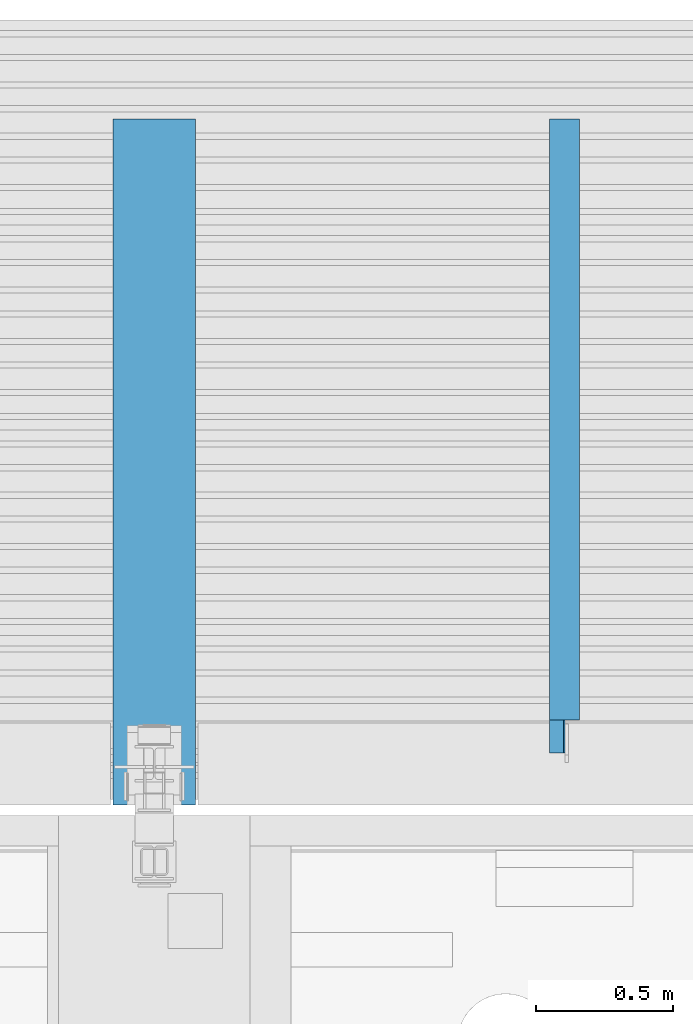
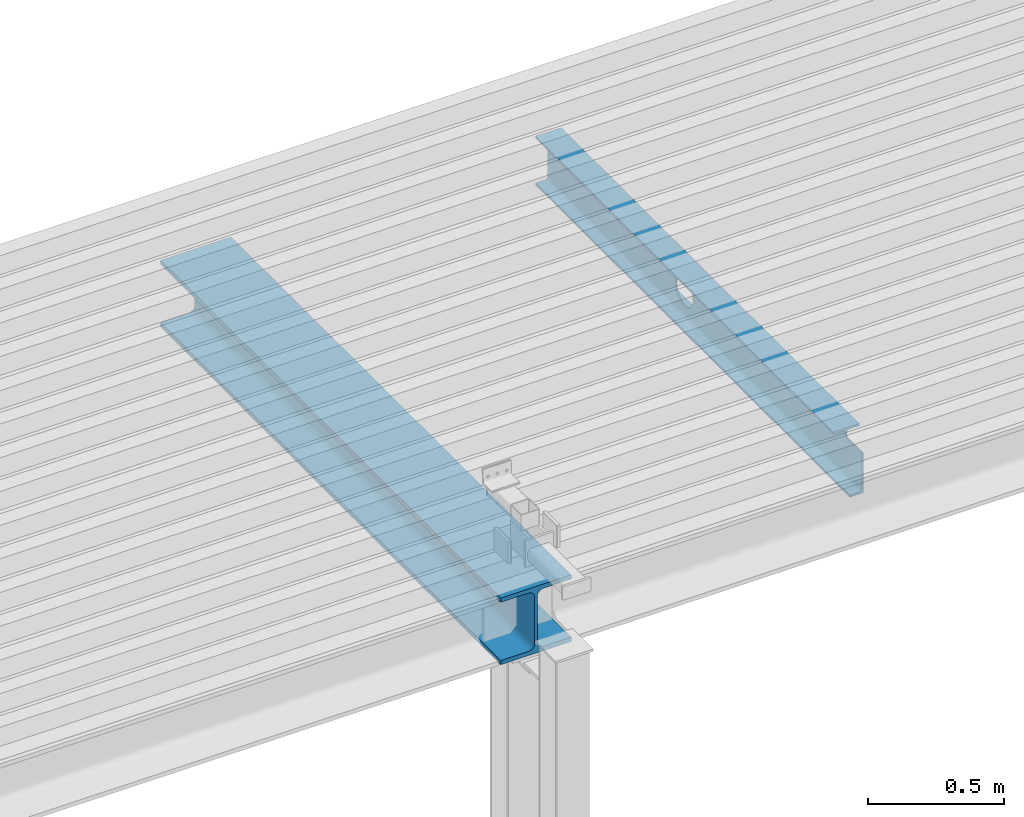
# One storey, part 24 of 34: 2 beams.
"""IFC2X3 building model written with IfcOpenShell, lengths in millimetres."""

from ifc_helpers import new_model, entity, si_unit, converted_unit, derived_unit, direction, frame, origin_with_axes, place, context, subcontext, project, spatial, faceted_brep, type_object, element, save


model = new_model("IFC2X3")

# Units and contexts
model_context = context("Model", 3, precision=0.01, world=frame((0.0, 4.29681676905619e-09, 0.0)), true_north=direction((4.01073788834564e-13, 1.0)))
plan_context = context("Plan", 3, precision=0.01, world=frame((0.0, 4.29681676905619e-09, 0.0)), true_north=direction((4.01073788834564e-13, 1.0)))
body_context = subcontext(model_context, "Body", "Model", "MODEL_VIEW")
ifc_project = project(units=[converted_unit("PLANEANGLEUNIT", "DEGREE", entity("IfcPositiveLengthMeasure", 0.0174532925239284), si_unit("PLANEANGLEUNIT", "RADIAN"), dimensions=[0, 0, 0, 0, 0, 0, 0]), si_unit("AREAUNIT", "SQUARE_METRE"), si_unit("LENGTHUNIT", "METRE", prefix="MILLI"), si_unit("MASSUNIT", "GRAM", prefix="KILO"), si_unit("POWERUNIT", "WATT"), si_unit("PRESSUREUNIT", "PASCAL"), si_unit("FORCEUNIT", "NEWTON", prefix="KILO"), si_unit("ELECTRICVOLTAGEUNIT", "VOLT"), si_unit("ELECTRICCURRENTUNIT", "AMPERE"), si_unit("THERMODYNAMICTEMPERATUREUNIT", "DEGREE_CELSIUS"), si_unit("TIMEUNIT", "SECOND"), si_unit("VOLUMEUNIT", "CUBIC_METRE"), derived_unit("LINEARVELOCITYUNIT", [(si_unit("LENGTHUNIT", "METRE"), 1), (si_unit("TIMEUNIT", "SECOND"), -1)]), derived_unit("VOLUMETRICFLOWRATEUNIT", [(si_unit("VOLUMEUNIT", "CUBIC_METRE"), 1), (si_unit("TIMEUNIT", "SECOND"), -1)]), derived_unit("THERMALTRANSMITTANCEUNIT", [(si_unit("POWERUNIT", "WATT"), 1), (si_unit("THERMODYNAMICTEMPERATUREUNIT", "KELVIN"), -1), (si_unit("AREAUNIT", "SQUARE_METRE"), -1)]), derived_unit("SOUNDPRESSUREUNIT", [(si_unit("PRESSUREUNIT", "PASCAL"), 1)])], contexts=[model_context, plan_context])

# Site, building, storey
site_placement = place(None, frame((0.0, -4.29681676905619e-09, 0.0), z_axis=(0.0, 0.0, 1.0), x_axis=(1.0, 0.0, 0.0)))
site = spatial("IfcSite", under=ifc_project, at=site_placement, Name="Gardermoen", CompositionType="ELEMENT")
building_placement = place(site_placement, frame((0.0, 4.29681676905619e-09, 0.0), z_axis=(0.0, 0.0, 1.0), x_axis=(1.0, 0.0, 0.0)))
building = spatial("IfcBuilding", under=site, at=building_placement, Name="TH", CompositionType="ELEMENT")
storey_placement = place(building_placement, origin_with_axes())
storey = spatial("IfcBuildingStorey", under=building, at=storey_placement, Name="F", CompositionType="ELEMENT", Elevation=0.0)

# Beams
beam_type_1 = type_object("IfcBeamType", Name="HEB300", PredefinedType="NOTDEFINED")
beam_1_placement = place(storey_placement, frame((898000.000000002, 484849.995625, 213270.0), z_axis=(0.0, 0.0, 1.0), x_axis=(0.0, 1.0, 0.0)))
element("IfcBeam", 1, at=beam_1_placement, inside=storey, type_object=beam_type_1, Name="STÅLBJELKE", ObjectType="HEB300", context=body_context, shape_type="Brep", body=[
    faceted_brep([(2507.65437500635, -149.999999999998, -149.999999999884), (2507.65437500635, 150.000000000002, -149.999999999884), (-4.10182110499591e-10, 150.000000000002, -149.999999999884), (-4.10182110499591e-10, -149.999999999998, -149.999999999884), (2507.65437500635, -149.999999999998, -130.999999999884), (-4.10182110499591e-10, -149.999999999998, -130.999999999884), (2507.65437500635, -32.4999999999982, -130.999999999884), (-4.10182110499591e-10, -32.4999999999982, -130.999999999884), (2507.65437500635, -27.2325613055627, -130.481202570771), (-4.10182110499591e-10, -27.2325613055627, -130.481202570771), (2507.65437500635, -22.1675473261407, -128.944747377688), (-4.10182110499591e-10, -22.1675473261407, -128.944747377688), (2507.65437500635, -17.4996037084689, -126.449679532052), (-4.10182110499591e-10, -17.4996037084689, -126.449679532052), (2507.65437500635, -13.4081169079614, -123.09188309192), (-4.10182110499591e-10, -13.4081169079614, -123.09188309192), (2507.65437500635, -10.0503204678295, -119.000396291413), (-4.10182110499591e-10, -10.0503204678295, -119.000396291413), (2507.65437500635, -7.55525262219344, -114.332452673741), (-4.10182110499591e-10, -7.55525262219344, -114.332452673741), (2507.65437500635, -6.01879742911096, -109.267438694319), (-4.10182110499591e-10, -6.01879742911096, -109.267438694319), (2507.65437500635, -5.49999999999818, -103.999999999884), (-4.10182110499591e-10, -5.49999999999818, -103.999999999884), (2507.65437500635, -5.49999999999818, 104.000000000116), (-4.10182110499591e-10, -5.49999999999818, 104.000000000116), (1499.99999644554, -5.49999999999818, -22.4999973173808), (1510.2871607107, -5.49999999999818, -21.6475789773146), (1520.2937158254, -5.49999999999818, -19.113575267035), (1529.74671125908, -5.49999999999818, -14.9671072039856), (1538.38829393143, -5.49999999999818, -9.32127963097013), (1545.98274398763, -5.49999999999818, -2.33009601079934), (1552.32290462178, -5.49999999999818, 5.81574238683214), (1557.23583277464, -5.49999999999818, 14.8940383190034), (1560.58751656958, -5.49999999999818, 24.6571595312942), (1562.28653080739, -5.49999999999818, 34.8387935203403), (1562.28653080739, -5.49999999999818, 45.1612118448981), (1560.58751656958, -5.49999999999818, 55.3428458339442), (1557.23583277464, -5.49999999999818, 65.105967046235), (1552.32290462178, -5.49999999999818, 74.1842629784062), (1545.98274398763, -5.49999999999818, 82.3301013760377), (1538.38829393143, -5.49999999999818, 89.3212849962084), (1529.74671125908, -5.49999999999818, 94.9671125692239), (1520.2937158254, -5.49999999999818, 99.1135806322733), (1510.2871607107, -5.49999999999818, 101.647584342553), (1499.99999866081, -5.49999999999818, 102.500002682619), (1489.14699239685, -5.49999999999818, 101.550487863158), (1478.62374438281, -5.49999999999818, 98.7307926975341), (1468.75000307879, -5.49999999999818, 94.1265921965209), (1459.82577711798, -5.49999999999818, 87.8777826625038), (1452.1222245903, -5.49999999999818, 80.1742310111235), (1445.87341404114, -5.49999999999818, 71.250005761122), (1441.26921241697, -5.49999999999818, 61.3762649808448), (1438.4495160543, -5.49999999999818, 50.8530172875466), (1437.50000000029, -5.49999999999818, 40.0000062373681), (1438.44951481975, -5.49999999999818, 29.1469950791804), (1441.26920998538, -5.49999999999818, 18.6237470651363), (1445.87341048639, -5.49999999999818, 8.75000576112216), (1452.12222002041, -5.49999999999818, -0.17422019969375), (1459.82577167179, -5.49999999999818, -7.87777272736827), (1468.74999692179, -5.49999999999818, -14.1265832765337), (1478.62373770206, -5.49999999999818, -18.7307849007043), (1489.14698539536, -5.49999999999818, -21.5504812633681), (2507.65437500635, -6.01879742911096, 109.267438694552), (-4.10182110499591e-10, -6.01879742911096, 109.267438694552), (2507.65437500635, -7.55525262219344, 114.332452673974), (-4.10182110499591e-10, -7.55525262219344, 114.332452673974), (2507.65437500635, -10.0503204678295, 119.000396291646), (-4.10182110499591e-10, -10.0503204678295, 119.000396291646), (2507.65437500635, -13.4081169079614, 123.091883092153), (-4.10182110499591e-10, -13.4081169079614, 123.091883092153), (2507.65437500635, -17.4996037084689, 126.449679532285), (-4.10182110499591e-10, -17.4996037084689, 126.449679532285), (2507.65437500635, -22.1675473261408, 128.944747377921), (-4.10182110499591e-10, -22.1675473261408, 128.944747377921), (2507.65437500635, -27.2325613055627, 130.481202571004), (-4.10182110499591e-10, -27.2325613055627, 130.481202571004), (2507.65437500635, -32.4999999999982, 131.000000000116), (-4.10182110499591e-10, -32.4999999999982, 131.000000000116), (2507.65437500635, -149.999999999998, 131.000000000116), (-4.10182110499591e-10, -149.999999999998, 131.000000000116), (2507.65437500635, -149.999999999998, 150.000000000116), (-4.10182110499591e-10, -149.999999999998, 150.000000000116), (2507.65437500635, 150.000000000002, 150.000000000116), (-4.10182110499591e-10, 150.000000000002, 150.000000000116), (2507.65437500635, 150.000000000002, 131.000000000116), (-4.10182110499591e-10, 150.000000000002, 131.000000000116), (2507.65437500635, 32.5000000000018, 131.000000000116), (-4.10182110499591e-10, 32.5000000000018, 131.000000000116), (2507.65437500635, 27.2325613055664, 130.481202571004), (-4.10182110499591e-10, 27.2325613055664, 130.481202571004), (2507.65437500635, 22.1675473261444, 128.944747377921), (-4.10182110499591e-10, 22.1675473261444, 128.944747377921), (2507.65437500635, 17.4996037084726, 126.449679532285), (-4.10182110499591e-10, 17.4996037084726, 126.449679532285), (2507.65437500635, 13.408116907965, 123.091883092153), (-4.10182110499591e-10, 13.408116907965, 123.091883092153), (2507.65437500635, 10.0503204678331, 119.000396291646), (-4.10182110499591e-10, 10.0503204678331, 119.000396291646), (2507.65437500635, 7.55525262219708, 114.332452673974), (-4.10182110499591e-10, 7.55525262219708, 114.332452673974), (2507.65437500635, 6.0187974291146, 109.267438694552), (-4.10182110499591e-10, 6.0187974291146, 109.267438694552), (2507.65437500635, 5.50000000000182, 104.000000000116), (-4.10182110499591e-10, 5.50000000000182, 104.000000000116), (2507.65437500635, 5.50000000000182, -103.999999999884), (-4.10182110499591e-10, 5.50000000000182, -103.999999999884), (1510.2871607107, 5.5000000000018, -21.6475789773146), (1499.99999644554, 5.5000000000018, -22.4999973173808), (1489.14698539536, 5.5000000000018, -21.5504812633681), (1478.62373770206, 5.5000000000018, -18.7307849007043), (1468.74999692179, 5.5000000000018, -14.1265832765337), (1459.82577167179, 5.5000000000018, -7.87777272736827), (1452.12222002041, 5.5000000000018, -0.17422019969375), (1445.87341048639, 5.5000000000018, 8.75000576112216), (1441.26920998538, 5.5000000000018, 18.6237470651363), (1438.44951481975, 5.5000000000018, 29.1469950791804), (1437.50000000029, 5.5000000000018, 40.0000062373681), (1438.4495160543, 5.5000000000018, 50.8530172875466), (1441.26921241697, 5.5000000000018, 61.3762649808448), (1445.87341404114, 5.5000000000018, 71.250005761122), (1452.1222245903, 5.5000000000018, 80.1742310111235), (1459.82577711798, 5.5000000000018, 87.8777826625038), (1468.75000307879, 5.5000000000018, 94.1265921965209), (1478.62374438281, 5.5000000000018, 98.7307926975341), (1489.14699239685, 5.5000000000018, 101.550487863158), (1499.99999866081, 5.5000000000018, 102.500002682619), (1510.2871607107, 5.5000000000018, 101.647584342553), (1520.2937158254, 5.5000000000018, 99.1135806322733), (1529.74671125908, 5.5000000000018, 94.9671125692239), (1538.38829393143, 5.5000000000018, 89.3212849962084), (1545.98274398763, 5.5000000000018, 82.3301013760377), (1552.32290462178, 5.5000000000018, 74.1842629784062), (1557.23583277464, 5.5000000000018, 65.105967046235), (1560.58751656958, 5.5000000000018, 55.3428458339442), (1562.28653080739, 5.5000000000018, 45.1612118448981), (1562.28653080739, 5.5000000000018, 34.8387935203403), (1560.58751656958, 5.5000000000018, 24.6571595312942), (1557.23583277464, 5.5000000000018, 14.8940383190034), (1552.32290462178, 5.5000000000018, 5.81574238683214), (1545.98274398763, 5.5000000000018, -2.33009601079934), (1538.38829393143, 5.5000000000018, -9.32127963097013), (1529.74671125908, 5.5000000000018, -14.9671072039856), (1520.2937158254, 5.5000000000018, -19.113575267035), (2507.65437500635, 6.0187974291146, -109.267438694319), (-4.10182110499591e-10, 6.0187974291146, -109.267438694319), (2507.65437500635, 7.55525262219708, -114.332452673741), (-4.10182110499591e-10, 7.55525262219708, -114.332452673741), (2507.65437500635, 10.0503204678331, -119.000396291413), (-4.10182110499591e-10, 10.0503204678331, -119.000396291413), (2507.65437500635, 13.408116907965, -123.09188309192), (-4.10182110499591e-10, 13.408116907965, -123.09188309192), (2507.65437500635, 17.4996037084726, -126.449679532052), (-4.10182110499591e-10, 17.4996037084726, -126.449679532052), (2507.65437500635, 22.1675473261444, -128.944747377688), (-4.10182110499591e-10, 22.1675473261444, -128.944747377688), (2507.65437500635, 27.2325613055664, -130.481202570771), (-4.10182110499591e-10, 27.2325613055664, -130.481202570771), (2507.65437500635, 32.5000000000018, -130.999999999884), (-4.10182110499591e-10, 32.5000000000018, -130.999999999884), (2507.65437500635, 150.000000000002, -130.999999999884), (-4.10182110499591e-10, 150.000000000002, -130.999999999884)], [[[0, 1, 2, 3]], [[4, 0, 3, 5]], [[6, 4, 5, 7]], [[8, 6, 7, 9]], [[10, 8, 9, 11]], [[12, 10, 11, 13]], [[14, 12, 13, 15]], [[16, 14, 15, 17]], [[18, 16, 17, 19]], [[20, 18, 19, 21]], [[22, 20, 21, 23]], [[24, 22, 23, 25], [26, 27, 28, 29, 30, 31, 32, 33, 34, 35, 36, 37, 38, 39, 40, 41, 42, 43, 44, 45, 46, 47, 48, 49, 50, 51, 52, 53, 54, 55, 56, 57, 58, 59, 60, 61, 62]], [[63, 24, 25, 64]], [[65, 63, 64, 66]], [[67, 65, 66, 68]], [[69, 67, 68, 70]], [[71, 69, 70, 72]], [[73, 71, 72, 74]], [[75, 73, 74, 76]], [[77, 75, 76, 78]], [[79, 77, 78, 80]], [[81, 79, 80, 82]], [[83, 81, 82, 84]], [[85, 83, 84, 86]], [[87, 85, 86, 88]], [[89, 87, 88, 90]], [[91, 89, 90, 92]], [[93, 91, 92, 94]], [[95, 93, 94, 96]], [[97, 95, 96, 98]], [[99, 97, 98, 100]], [[101, 99, 100, 102]], [[103, 101, 102, 104]], [[105, 103, 104, 106], [107, 108, 109, 110, 111, 112, 113, 114, 115, 116, 117, 118, 119, 120, 121, 122, 123, 124, 125, 126, 127, 128, 129, 130, 131, 132, 133, 134, 135, 136, 137, 138, 139, 140, 141, 142, 143]], [[144, 105, 106, 145]], [[146, 144, 145, 147]], [[148, 146, 147, 149]], [[150, 148, 149, 151]], [[152, 150, 151, 153]], [[154, 152, 153, 155]], [[156, 154, 155, 157]], [[158, 156, 157, 159]], [[160, 158, 159, 161]], [[1, 160, 161, 2]], [[3, 2, 161, 159, 157, 155, 153, 151, 149, 147, 145, 106, 104, 102, 100, 98, 96, 94, 92, 90, 88, 86, 84, 82, 80, 78, 76, 74, 72, 70, 68, 66, 64, 25, 23, 21, 19, 17, 15, 13, 11, 9, 7, 5]], [[27, 26, 108, 107]], [[26, 62, 109, 108]], [[62, 61, 110, 109]], [[61, 60, 111, 110]], [[60, 59, 112, 111]], [[59, 58, 113, 112]], [[58, 57, 114, 113]], [[57, 56, 115, 114]], [[56, 55, 116, 115]], [[55, 54, 117, 116]], [[54, 53, 118, 117]], [[53, 52, 119, 118]], [[52, 51, 120, 119]], [[51, 50, 121, 120]], [[50, 49, 122, 121]], [[49, 48, 123, 122]], [[48, 47, 124, 123]], [[47, 46, 125, 124]], [[46, 45, 126, 125]], [[45, 44, 127, 126]], [[44, 43, 128, 127]], [[43, 42, 129, 128]], [[42, 41, 130, 129]], [[41, 40, 131, 130]], [[40, 39, 132, 131]], [[39, 38, 133, 132]], [[38, 37, 134, 133]], [[37, 36, 135, 134]], [[36, 35, 136, 135]], [[35, 34, 137, 136]], [[34, 33, 138, 137]], [[33, 32, 139, 138]], [[32, 31, 140, 139]], [[31, 30, 141, 140]], [[30, 29, 142, 141]], [[29, 28, 143, 142]], [[28, 27, 107, 143]], [[4, 6, 8, 10, 12, 14, 16, 18, 20, 22, 24, 63, 65, 67, 69, 71, 73, 75, 77, 79, 81, 83, 85, 87, 89, 91, 93, 95, 97, 99, 101, 103, 105, 144, 146, 148, 150, 152, 154, 156, 158, 160, 1, 0]]], orient=[[False], [False], [False], [False], [False], [False], [False], [False], [False], [False], [False], [False, False], [False], [False], [False], [False], [False], [False], [False], [False], [False], [False], [False], [False], [False], [False], [False], [False], [False], [False], [False], [False], [False], [False, False], [False], [False], [False], [False], [False], [False], [False], [False], [False], [False], [False], [False], [False], [False], [False], [False], [False], [False], [False], [False], [False], [False], [False], [False], [False], [False], [False], [False], [False], [False], [False], [False], [False], [False], [False], [False], [False], [False], [False], [False], [False], [False], [False], [False], [False], [False], [False], [False], [False]]),
])
beam_type_2 = type_object("IfcBeamType", Name="IPE220", PredefinedType="NOTDEFINED")
beam_2_placement = place(storey_placement, frame((899499.999781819, 485029.995624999, 213310.0), z_axis=(0.0, 0.0, 1.0), x_axis=(0.0, 1.0, 0.0)))
element("IfcBeam", 2, at=beam_2_placement, inside=storey, type_object=beam_type_2, Name="STÅLBJELKE", ObjectType="IPE220", context=body_context, shape_type="Brep", body=[
    faceted_brep([(2327.65437500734, -55.0, -110.0), (2327.65437500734, 55.0, -110.0), (9.99999999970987, 55.0, -110.0), (9.99999999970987, -2.9500000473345, -110.0), (129.999999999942, -2.95000004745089, -110.0), (129.999999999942, -55.0, -110.0), (2327.65437500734, -55.0, -100.800000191), (129.999999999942, -55.0, -100.800000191), (2327.65437500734, -14.9500000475, -100.800000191), (129.999999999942, -14.9500000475, -100.800000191), (2327.65437500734, -12.6089161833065, -100.569423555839), (129.999999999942, -12.6089161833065, -100.569423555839), (2327.65437500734, -10.3577988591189, -99.8865545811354), (129.999999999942, -10.3577988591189, -99.8865545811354), (2327.65437500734, -8.28315725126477, -98.7776355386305), (129.999999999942, -8.28315725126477, -98.7776355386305), (2327.65437500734, -6.46471867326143, -97.2852815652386), (129.999999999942, -6.46471867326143, -97.2852815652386), (2327.65437500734, -4.97236469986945, -95.4668429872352), (129.999999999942, -4.97236469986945, -95.4668429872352), (2327.65437500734, -3.86344565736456, -93.3922013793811), (129.999999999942, -3.86344565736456, -93.3922013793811), (2327.65437500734, -3.18057668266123, -91.1410840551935), (129.999999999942, -3.18057668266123, -91.1410840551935), (2327.65437500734, -2.9500000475, -88.800000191), (129.999999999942, -2.96969830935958, -89.0), (9.99999999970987, -2.96969830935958, -89.0), (9.99999999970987, -2.9500000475, -88.800000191), (2327.65437500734, -2.9500000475, 88.800000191), (9.99999999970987, -2.9500000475, 70.0), (120.000000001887, -2.9500000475, 69.9999999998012), (121.564344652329, -2.9500000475, 70.1231165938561), (123.090169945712, -2.9500000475, 70.4894348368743), (124.539904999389, -2.9500000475, 71.0899347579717), (125.87785252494, -2.9500000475, 71.9098300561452), (127.071067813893, -2.9500000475, 72.9289321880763), (128.090169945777, -2.9500000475, 74.1221474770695), (128.910065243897, -2.9500000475, 75.4600950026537), (129.510565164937, -2.9500000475, 76.9098300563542), (129.876883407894, -2.9500000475, 78.4356553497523), (130.000000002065, -2.9500000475, 79.999999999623), (130.000000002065, -2.9500000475, 88.800000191), (1319.99999644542, -2.95000004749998, -62.4999973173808), (1330.28716071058, -2.95000004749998, -61.6475789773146), (1340.29371582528, -2.95000004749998, -59.113575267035), (1349.74671125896, -2.95000004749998, -54.9671072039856), (1358.38829393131, -2.95000004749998, -49.3212796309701), (1365.98274398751, -2.95000004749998, -42.3300960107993), (1372.32290462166, -2.95000004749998, -34.1842576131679), (1377.23583277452, -2.95000004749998, -25.1059616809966), (1380.58751656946, -2.95000004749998, -15.3428404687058), (1382.28653080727, -2.95000004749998, -5.16120647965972), (1382.28653080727, -2.95000004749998, 5.16121184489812), (1380.58751656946, -2.95000004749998, 15.3428458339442), (1377.23583277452, -2.95000004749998, 25.105967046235), (1372.32290462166, -2.95000004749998, 34.1842629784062), (1365.98274398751, -2.95000004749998, 42.3301013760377), (1358.38829393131, -2.95000004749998, 49.3212849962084), (1349.74671125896, -2.95000004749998, 54.9671125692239), (1340.29371582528, -2.95000004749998, 59.1135806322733), (1330.28716071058, -2.95000004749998, 61.6475843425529), (1319.99999866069, -2.95000004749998, 62.5000026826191), (1309.14699239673, -2.95000004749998, 61.5504878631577), (1298.62374438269, -2.95000004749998, 58.7307926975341), (1288.75000307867, -2.95000004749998, 54.1265921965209), (1279.82577711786, -2.95000004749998, 47.8777826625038), (1272.12222459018, -2.95000004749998, 40.1742310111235), (1265.87341404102, -2.95000004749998, 31.250005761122), (1261.26921241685, -2.95000004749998, 21.3762649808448), (1258.44951605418, -2.95000004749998, 10.8530172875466), (1257.50000000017, -2.95000004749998, 6.23736814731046e-06), (1258.44951481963, -2.95000004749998, -10.8530049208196), (1261.26920998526, -2.95000004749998, -21.3762529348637), (1265.87341048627, -2.95000004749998, -31.2499942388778), (1272.12222002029, -2.95000004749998, -40.1742201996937), (1279.82577167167, -2.95000004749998, -47.8777727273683), (1288.74999692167, -2.95000004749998, -54.1265832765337), (1298.62373770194, -2.95000004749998, -58.7307849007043), (1309.14698539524, -2.95000004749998, -61.5504812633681), (2327.65437500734, -3.18057668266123, 91.1410840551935), (130.000000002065, -3.18057668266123, 91.1410840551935), (2327.65437500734, -3.86344565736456, 93.3922013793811), (130.000000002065, -3.86344565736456, 93.3922013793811), (2327.65437500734, -4.97236469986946, 95.4668429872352), (130.000000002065, -4.97236469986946, 95.4668429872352), (2327.65437500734, -6.46471867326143, 97.2852815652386), (130.000000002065, -6.46471867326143, 97.2852815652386), (2327.65437500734, -8.28315725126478, 98.7776355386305), (130.000000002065, -8.28315725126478, 98.7776355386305), (2327.65437500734, -10.3577988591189, 99.8865545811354), (130.000000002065, -10.3577988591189, 99.8865545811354), (2327.65437500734, -12.6089161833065, 100.569423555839), (130.000000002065, -12.6089161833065, 100.569423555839), (2327.65437500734, -14.9500000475, 100.800000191), (130.000000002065, -14.9500000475, 100.800000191), (2327.65437500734, -55.0, 100.800000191), (130.000000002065, -55.0, 100.800000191), (2327.65437500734, -55.0, 110.0), (130.000000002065, -55.0, 110.0), (2327.65437500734, 55.0, 110.0), (130.000000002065, 55.0, 110.0), (2327.65437500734, 55.0, 100.800000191), (130.000000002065, 55.0, 100.800000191), (2327.65437500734, 14.9500000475, 100.800000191), (130.000000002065, 14.9500000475, 100.800000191), (2327.65437500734, 12.6089161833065, 100.569423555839), (130.000000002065, 12.6089161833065, 100.569423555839), (2327.65437500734, 10.3577988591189, 99.8865545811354), (130.000000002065, 10.3577988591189, 99.8865545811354), (2327.65437500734, 8.28315725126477, 98.7776355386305), (130.000000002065, 8.28315725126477, 98.7776355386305), (2327.65437500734, 6.46471867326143, 97.2852815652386), (130.000000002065, 6.46471867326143, 97.2852815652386), (2327.65437500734, 4.97236469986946, 95.4668429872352), (130.000000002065, 4.97236469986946, 95.4668429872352), (2327.65437500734, 3.86344565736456, 93.3922013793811), (130.000000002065, 3.86344565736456, 93.3922013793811), (2327.65437500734, 3.18057668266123, 91.1410840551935), (130.000000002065, 3.18057668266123, 91.1410840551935), (2327.65437500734, 2.9500000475, 88.800000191), (130.000000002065, 2.9500000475, 88.800000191), (2327.65437500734, 2.9500000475, -88.800000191), (130.000000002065, 2.95000004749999, 79.999999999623), (129.876883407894, 2.95000004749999, 78.4356553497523), (129.510565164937, 2.95000004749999, 76.9098300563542), (128.910065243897, 2.95000004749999, 75.4600950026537), (128.090169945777, 2.95000004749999, 74.1221474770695), (127.071067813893, 2.95000004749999, 72.9289321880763), (125.87785252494, 2.95000004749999, 71.9098300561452), (124.539904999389, 2.95000004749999, 71.0899347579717), (123.090169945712, 2.95000004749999, 70.4894348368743), (121.564344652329, 2.95000004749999, 70.1231165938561), (120.000000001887, 2.95000004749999, 69.9999999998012), (9.99999999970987, 2.9500000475, 70.0), (9.99999999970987, 2.9500000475, -88.800000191), (1330.28716071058, 2.95000004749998, -61.6475789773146), (1319.99999644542, 2.95000004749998, -62.4999973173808), (1309.14698539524, 2.95000004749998, -61.5504812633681), (1298.62373770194, 2.95000004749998, -58.7307849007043), (1288.74999692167, 2.95000004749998, -54.1265832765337), (1279.82577167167, 2.95000004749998, -47.8777727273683), (1272.12222002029, 2.95000004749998, -40.1742201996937), (1265.87341048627, 2.95000004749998, -31.2499942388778), (1261.26920998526, 2.95000004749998, -21.3762529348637), (1258.44951481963, 2.95000004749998, -10.8530049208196), (1257.50000000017, 2.95000004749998, 6.23736814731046e-06), (1258.44951605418, 2.95000004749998, 10.8530172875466), (1261.26921241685, 2.95000004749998, 21.3762649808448), (1265.87341404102, 2.95000004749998, 31.250005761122), (1272.12222459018, 2.95000004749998, 40.1742310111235), (1279.82577711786, 2.95000004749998, 47.8777826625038), (1288.75000307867, 2.95000004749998, 54.1265921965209), (1298.62374438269, 2.95000004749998, 58.7307926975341), (1309.14699239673, 2.95000004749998, 61.5504878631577), (1319.99999866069, 2.95000004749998, 62.5000026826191), (1330.28716071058, 2.95000004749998, 61.6475843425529), (1340.29371582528, 2.95000004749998, 59.1135806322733), (1349.74671125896, 2.95000004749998, 54.9671125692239), (1358.38829393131, 2.95000004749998, 49.3212849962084), (1365.98274398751, 2.95000004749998, 42.3301013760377), (1372.32290462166, 2.95000004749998, 34.1842629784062), (1377.23583277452, 2.95000004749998, 25.105967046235), (1380.58751656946, 2.95000004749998, 15.3428458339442), (1382.28653080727, 2.95000004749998, 5.16121184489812), (1382.28653080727, 2.95000004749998, -5.16120647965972), (1380.58751656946, 2.95000004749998, -15.3428404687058), (1377.23583277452, 2.95000004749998, -25.1059616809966), (1372.32290462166, 2.95000004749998, -34.1842576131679), (1365.98274398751, 2.95000004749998, -42.3300960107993), (1358.38829393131, 2.95000004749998, -49.3212796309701), (1349.74671125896, 2.95000004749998, -54.9671072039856), (1340.29371582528, 2.95000004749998, -59.113575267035), (2327.65437500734, 3.18057668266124, -91.1410840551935), (9.99999999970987, 3.18057668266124, -91.1410840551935), (2327.65437500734, 3.86344565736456, -93.3922013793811), (9.99999999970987, 3.86344565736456, -93.3922013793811), (2327.65437500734, 4.97236469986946, -95.4668429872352), (9.99999999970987, 4.97236469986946, -95.4668429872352), (2327.65437500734, 6.46471867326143, -97.2852815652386), (9.99999999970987, 6.46471867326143, -97.2852815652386), (2327.65437500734, 8.28315725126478, -98.7776355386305), (9.99999999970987, 8.28315725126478, -98.7776355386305), (2327.65437500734, 10.3577988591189, -99.8865545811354), (9.99999999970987, 10.3577988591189, -99.8865545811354), (2327.65437500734, 12.6089161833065, -100.569423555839), (9.99999999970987, 12.6089161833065, -100.569423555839), (2327.65437500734, 14.9500000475, -100.800000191), (9.99999999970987, 14.9500000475, -100.800000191), (2327.65437500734, 55.0, -100.800000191), (9.99999999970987, 55.0, -100.800000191), (129.999999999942, -2.95000004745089, -89.0), (9.99999999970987, -2.95000004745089, -89.0)], [[[0, 1, 2, 3, 4, 5]], [[6, 0, 5, 7]], [[8, 6, 7, 9]], [[10, 8, 9, 11]], [[12, 10, 11, 13]], [[14, 12, 13, 15]], [[16, 14, 15, 17]], [[18, 16, 17, 19]], [[20, 18, 19, 21]], [[22, 20, 21, 23]], [[24, 22, 23, 25, 26, 27]], [[28, 24, 27, 29, 30, 31, 32, 33, 34, 35, 36, 37, 38, 39, 40, 41], [42, 43, 44, 45, 46, 47, 48, 49, 50, 51, 52, 53, 54, 55, 56, 57, 58, 59, 60, 61, 62, 63, 64, 65, 66, 67, 68, 69, 70, 71, 72, 73, 74, 75, 76, 77, 78]], [[79, 28, 41, 80]], [[81, 79, 80, 82]], [[83, 81, 82, 84]], [[85, 83, 84, 86]], [[87, 85, 86, 88]], [[89, 87, 88, 90]], [[91, 89, 90, 92]], [[93, 91, 92, 94]], [[95, 93, 94, 96]], [[97, 95, 96, 98]], [[99, 97, 98, 100]], [[101, 99, 100, 102]], [[103, 101, 102, 104]], [[105, 103, 104, 106]], [[107, 105, 106, 108]], [[109, 107, 108, 110]], [[111, 109, 110, 112]], [[113, 111, 112, 114]], [[115, 113, 114, 116]], [[117, 115, 116, 118]], [[119, 117, 118, 120]], [[121, 119, 120, 122, 123, 124, 125, 126, 127, 128, 129, 130, 131, 132, 133, 134], [135, 136, 137, 138, 139, 140, 141, 142, 143, 144, 145, 146, 147, 148, 149, 150, 151, 152, 153, 154, 155, 156, 157, 158, 159, 160, 161, 162, 163, 164, 165, 166, 167, 168, 169, 170, 171]], [[172, 121, 134, 173]], [[174, 172, 173, 175]], [[176, 174, 175, 177]], [[178, 176, 177, 179]], [[180, 178, 179, 181]], [[182, 180, 181, 183]], [[184, 182, 183, 185]], [[186, 184, 185, 187]], [[188, 186, 187, 189]], [[1, 188, 189, 2]], [[43, 42, 136, 135]], [[42, 78, 137, 136]], [[78, 77, 138, 137]], [[77, 76, 139, 138]], [[76, 75, 140, 139]], [[75, 74, 141, 140]], [[74, 73, 142, 141]], [[73, 72, 143, 142]], [[72, 71, 144, 143]], [[71, 70, 145, 144]], [[70, 69, 146, 145]], [[69, 68, 147, 146]], [[68, 67, 148, 147]], [[67, 66, 149, 148]], [[66, 65, 150, 149]], [[65, 64, 151, 150]], [[64, 63, 152, 151]], [[63, 62, 153, 152]], [[62, 61, 154, 153]], [[61, 60, 155, 154]], [[60, 59, 156, 155]], [[59, 58, 157, 156]], [[58, 57, 158, 157]], [[57, 56, 159, 158]], [[56, 55, 160, 159]], [[55, 54, 161, 160]], [[54, 53, 162, 161]], [[53, 52, 163, 162]], [[52, 51, 164, 163]], [[51, 50, 165, 164]], [[50, 49, 166, 165]], [[49, 48, 167, 166]], [[48, 47, 168, 167]], [[47, 46, 169, 168]], [[46, 45, 170, 169]], [[45, 44, 171, 170]], [[44, 43, 135, 171]], [[190, 25, 23, 21, 19, 17, 15, 13, 11, 9, 7, 5, 4]], [[190, 191, 26, 25]], [[190, 4, 3, 191]], [[30, 29, 133, 132]], [[132, 131, 31, 30]], [[131, 130, 32, 31]], [[130, 129, 33, 32]], [[129, 128, 34, 33]], [[128, 127, 35, 34]], [[127, 126, 36, 35]], [[126, 125, 37, 36]], [[125, 124, 38, 37]], [[124, 123, 39, 38]], [[123, 122, 40, 39]], [[122, 120, 118, 116, 114, 112, 110, 108, 106, 104, 102, 100, 98, 96, 94, 92, 90, 88, 86, 84, 82, 80, 41, 40]], [[26, 191, 3, 2, 189, 187, 185, 183, 181, 179, 177, 175, 173, 134, 133, 29, 27]], [[6, 8, 10, 12, 14, 16, 18, 20, 22, 24, 28, 79, 81, 83, 85, 87, 89, 91, 93, 95, 97, 99, 101, 103, 105, 107, 109, 111, 113, 115, 117, 119, 121, 172, 174, 176, 178, 180, 182, 184, 186, 188, 1, 0]]], orient=[[False], [False], [False], [False], [False], [False], [False], [False], [False], [False], [False], [False, False], [False], [False], [False], [False], [False], [False], [False], [False], [False], [False], [False], [False], [False], [False], [False], [False], [False], [False], [False], [False], [False], [False, False], [False], [False], [False], [False], [False], [False], [False], [False], [False], [False], [False], [False], [False], [False], [False], [False], [False], [False], [False], [False], [False], [False], [False], [False], [False], [False], [False], [False], [False], [False], [False], [False], [False], [False], [False], [False], [False], [False], [False], [False], [False], [False], [False], [False], [False], [False], [False], [False], [False], [False], [False], [False], [False], [False], [False], [False], [False], [False], [False], [False], [False], [False], [False], [False]]),
])

save(model, "model.ifc")
